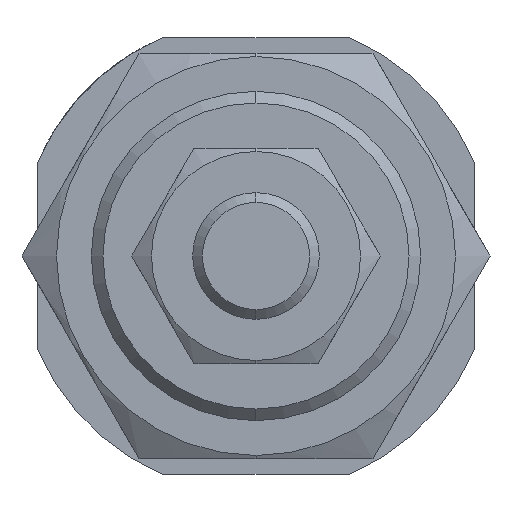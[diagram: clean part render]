
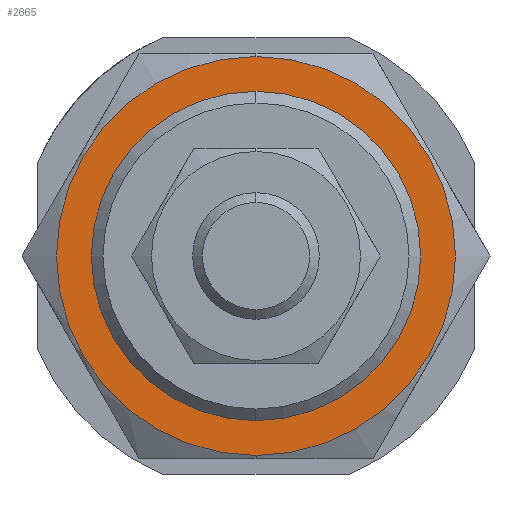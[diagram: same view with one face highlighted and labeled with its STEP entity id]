
A CAD part, left-side view. The second image highlights one B-rep face of the part: STEP entity #2665.
In plain terms, the highlighted planar face has unit normal (-1, 0, 0).
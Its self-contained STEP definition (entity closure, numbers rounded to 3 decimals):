
#53 = ORIENTED_EDGE ( 'NONE', *, *, #4172, .T. ) ;
#67 = AXIS2_PLACEMENT_3D ( 'NONE', #3184, #1211, #3211 ) ;
#201 = DIRECTION ( 'NONE',  ( 0., 0., -1. ) ) ;
#531 = CARTESIAN_POINT ( 'NONE',  ( -11., 0., 0. ) ) ;
#810 = DIRECTION ( 'NONE',  ( 1., 0., 0. ) ) ;
#863 = VERTEX_POINT ( 'NONE', #2797 ) ;
#1130 = VERTEX_POINT ( 'NONE', #2298 ) ;
#1211 = DIRECTION ( 'NONE',  ( 1., 0., 0. ) ) ;
#1280 = PLANE ( 'NONE',  #4366 ) ;
#1375 = CARTESIAN_POINT ( 'NONE',  ( -11., 0., 15.75 ) ) ;
#1515 = DIRECTION ( 'NONE',  ( 1., 0., 0. ) ) ;
#1576 = AXIS2_PLACEMENT_3D ( 'NONE', #2740, #1515, #5280 ) ;
#1688 = ORIENTED_EDGE ( 'NONE', *, *, #1949, .F. ) ;
#1722 = CIRCLE ( 'NONE', #2246, 15.75 ) ;
#1918 = AXIS2_PLACEMENT_3D ( 'NONE', #531, #5165, #201 ) ;
#1949 = EDGE_CURVE ( 'NONE', #1976, #5234, #2444, .T. ) ;
#1976 = VERTEX_POINT ( 'NONE', #3209 ) ;
#2246 = AXIS2_PLACEMENT_3D ( 'NONE', #5292, #2398, #5345 ) ;
#2298 = CARTESIAN_POINT ( 'NONE',  ( -11., 0., -13. ) ) ;
#2398 = DIRECTION ( 'NONE',  ( 1., 0., 0. ) ) ;
#2444 = CIRCLE ( 'NONE', #1576, 15.75 ) ;
#2665 = ADVANCED_FACE ( 'NONE', ( #3735, #4089 ), #1280, .F. ) ;
#2740 = CARTESIAN_POINT ( 'NONE',  ( -11., 0., 0. ) ) ;
#2797 = CARTESIAN_POINT ( 'NONE',  ( -11., 0., 13. ) ) ;
#2829 = ORIENTED_EDGE ( 'NONE', *, *, #5226, .T. ) ;
#2897 = CARTESIAN_POINT ( 'NONE',  ( -11., 0., 0. ) ) ;
#3005 = ORIENTED_EDGE ( 'NONE', *, *, #3755, .F. ) ;
#3184 = CARTESIAN_POINT ( 'NONE',  ( -11., 0., 0. ) ) ;
#3209 = CARTESIAN_POINT ( 'NONE',  ( -11., 0., -15.75 ) ) ;
#3211 = DIRECTION ( 'NONE',  ( 0., 0., -1. ) ) ;
#3275 = EDGE_LOOP ( 'NONE', ( #1688, #3005 ) ) ;
#3735 = FACE_OUTER_BOUND ( 'NONE', #3275, .T. ) ;
#3755 = EDGE_CURVE ( 'NONE', #5234, #1976, #1722, .T. ) ;
#4089 = FACE_BOUND ( 'NONE', #4675, .T. ) ;
#4172 = EDGE_CURVE ( 'NONE', #1130, #863, #5212, .T. ) ;
#4366 = AXIS2_PLACEMENT_3D ( 'NONE', #2897, #810, #4528 ) ;
#4528 = DIRECTION ( 'NONE',  ( 0., 1., 0. ) ) ;
#4675 = EDGE_LOOP ( 'NONE', ( #2829, #53 ) ) ;
#5129 = CIRCLE ( 'NONE', #1918, 13. ) ;
#5165 = DIRECTION ( 'NONE',  ( 1., 0., 0. ) ) ;
#5212 = CIRCLE ( 'NONE', #67, 13. ) ;
#5226 = EDGE_CURVE ( 'NONE', #863, #1130, #5129, .T. ) ;
#5234 = VERTEX_POINT ( 'NONE', #1375 ) ;
#5280 = DIRECTION ( 'NONE',  ( 0., 0., -1. ) ) ;
#5292 = CARTESIAN_POINT ( 'NONE',  ( -11., 0., 0. ) ) ;
#5345 = DIRECTION ( 'NONE',  ( 0., 0., -1. ) ) ;
